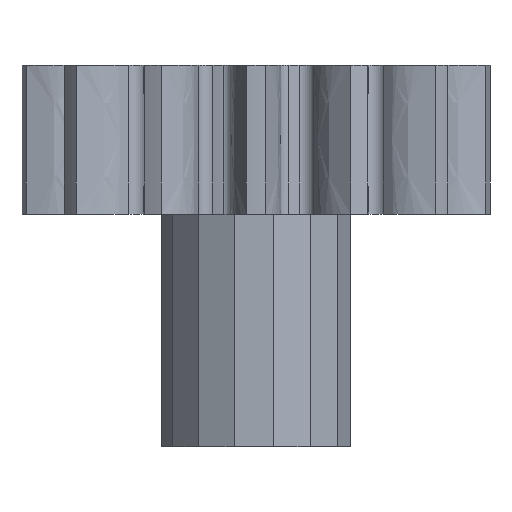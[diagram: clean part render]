
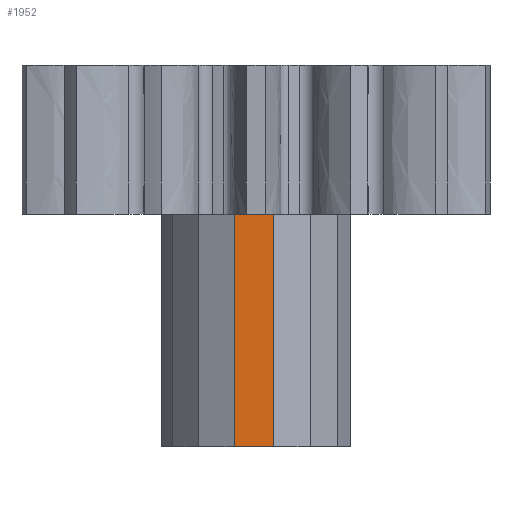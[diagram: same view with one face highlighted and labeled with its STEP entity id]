
A CAD part, front view. The second image highlights one B-rep face of the part: STEP entity #1952.
In plain terms, the highlighted planar face has unit normal (-0.022, -1, 0).
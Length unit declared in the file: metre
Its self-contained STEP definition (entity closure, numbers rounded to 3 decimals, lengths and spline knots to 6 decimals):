
#109=PLANE('',#2153);
#792=ORIENTED_EDGE('',*,*,#1033,.T.);
#793=ORIENTED_EDGE('',*,*,#1116,.T.);
#794=ORIENTED_EDGE('',*,*,#1117,.F.);
#795=ORIENTED_EDGE('',*,*,#1118,.F.);
#1033=EDGE_CURVE('',#1305,#1304,#1364,.T.);
#1116=EDGE_CURVE('',#1304,#1320,#1447,.T.);
#1117=EDGE_CURVE('',#1321,#1320,#1448,.T.);
#1118=EDGE_CURVE('',#1305,#1321,#1449,.T.);
#1304=VERTEX_POINT('',#5146);
#1305=VERTEX_POINT('',#5148);
#1320=VERTEX_POINT('',#6026);
#1321=VERTEX_POINT('',#6030);
#1364=LINE('',#5147,#1493);
#1447=LINE('',#6027,#1576);
#1448=LINE('',#6029,#1577);
#1449=LINE('',#6031,#1578);
#1493=VECTOR('',#2458,1.);
#1576=VECTOR('',#2647,1.);
#1577=VECTOR('',#2650,1.);
#1578=VECTOR('',#2651,1.);
#1682=EDGE_LOOP('',(#792,#793,#794,#795));
#1789=FACE_BOUND('',#1682,.T.);
#1952=ADVANCED_FACE('',(#1789),#109,.T.);
#2153=AXIS2_PLACEMENT_3D('',#6028,#2648,#2649);
#2458=DIRECTION('',(-1.,0.022,0.));
#2647=DIRECTION('',(0.,0.,-1.));
#2648=DIRECTION('',(-0.022,-1.,0.));
#2649=DIRECTION('',(1.,-0.022,0.));
#2650=DIRECTION('',(-1.,0.022,0.));
#2651=DIRECTION('',(0.,0.,-1.));
#5146=CARTESIAN_POINT('',(-0.000745,0.015891,0.007938));
#5147=CARTESIAN_POINT('',(-0.000408,0.015883,0.007938));
#5148=CARTESIAN_POINT('',(0.000604,0.015861,0.007938));
#6026=CARTESIAN_POINT('',(-0.000745,0.015891,0.));
#6027=CARTESIAN_POINT('',(-0.000745,0.015891,0.00794));
#6028=CARTESIAN_POINT('',(-0.000408,0.015883,0.00794));
#6029=CARTESIAN_POINT('',(-0.000408,0.015883,0.));
#6030=CARTESIAN_POINT('',(0.000604,0.015861,0.));
#6031=CARTESIAN_POINT('',(0.000604,0.015861,0.00794));
